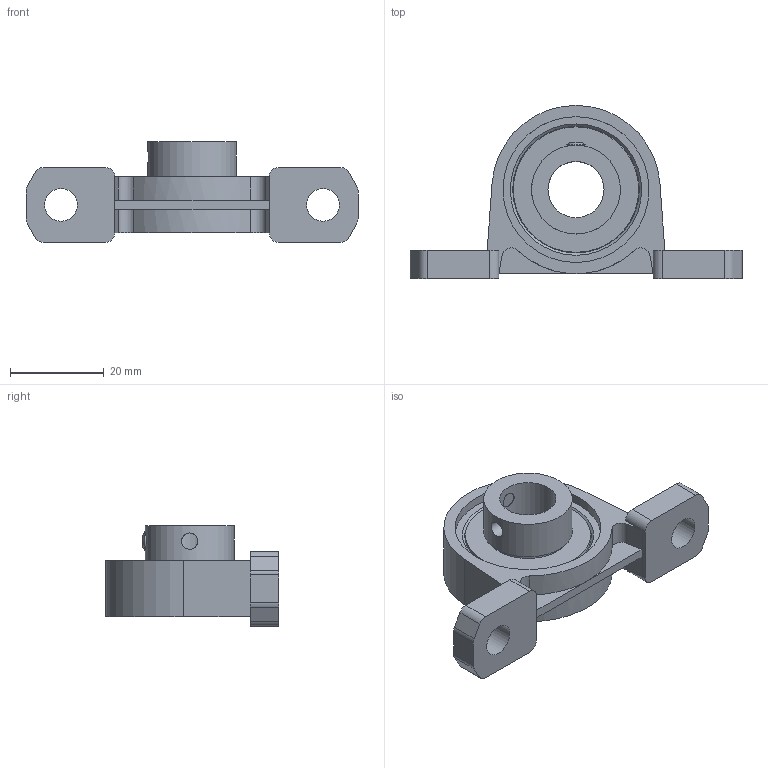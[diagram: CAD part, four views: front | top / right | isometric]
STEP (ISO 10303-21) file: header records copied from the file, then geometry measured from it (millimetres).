
FILE_DESCRIPTION((''),'2;1');
FILE_NAME('\\Ts-tgl068\J-Cad-D-BASE\00.3DCADデータ作成フォルダ\11.エコシリーズ\MUSP000\MUSP001.stp','2014-11-12T09:19:12',('btec_1106_2'),(''),'Autodesk Inventor 2012','Autodesk Inventor 2012','');
FILE_SCHEMA(('AUTOMOTIVE_DESIGN { 1 0 10303 214 1 1 1 1 }'));
Length unit declared in the file: millimetre
Products named in the file (3): MUSP000; SP001; U001
Assembly tree (2 placements, depth 2):
  MUSP000
    SP001
    U001
Bounding box: 71 x 37 x 21.5 mm (x, y, z)
Volume: 13670.9 mm3; surface area: 8520.5 mm2
Topology: 2 solids, 2 shells, 79 faces, 198 edges, 128 vertices
Faces by surface type: plane 44, cylinder 30, cone 3, sphere 2
Full cylindrical faces by diameter (mm): 3.5 x1, 4 x1, 7 x2, 12 x1, 17.4 x1, 19 x1, 31.2 x2
Entity records: 2450 total; most frequent: CARTESIAN_POINT 516, DIRECTION 402, ORIENTED_EDGE 352, EDGE_CURVE 176, AXIS2_PLACEMENT_3D 148, VERTEX_POINT 122, EDGE_LOOP 110, VECTOR 106
